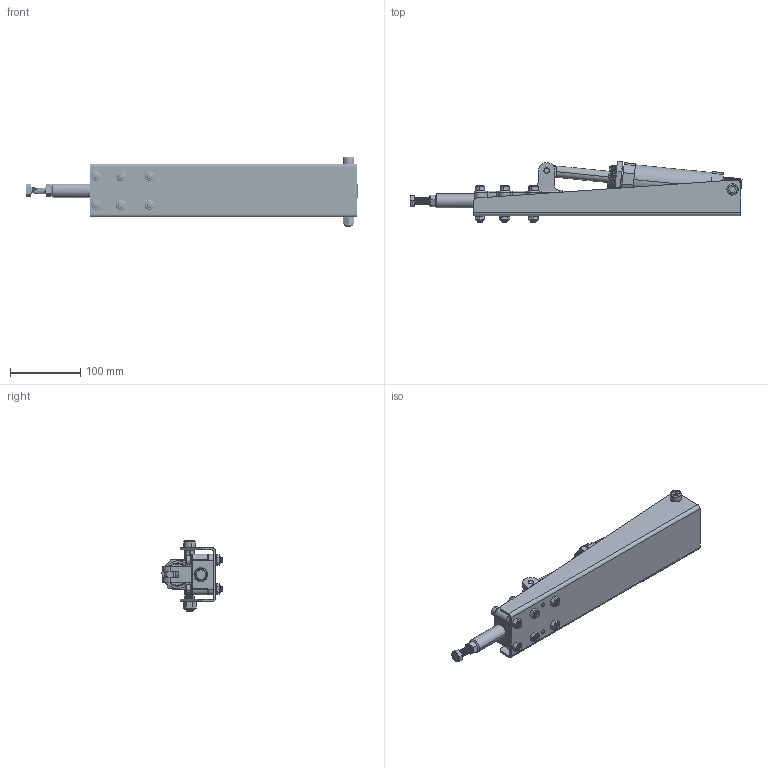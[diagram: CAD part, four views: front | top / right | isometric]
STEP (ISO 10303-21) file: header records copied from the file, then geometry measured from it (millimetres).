
FILE_DESCRIPTION(('FreeCAD Model'),'2;1');
FILE_NAME('Open CASCADE Shape Model','2021-08-18T14:46:13',('Author'),( ''),'Open CASCADE STEP processor 7.4','FreeCAD','Unknown');
FILE_SCHEMA(('AUTOMOTIVE_DESIGN { 1 0 10303 214 1 1 1 1 }'));
Length unit declared in the file: millimetre
Products named in the file (19): DST-31200-HL-A; CH-31200-04; M8X45; M8_Nut; DST-31200-06; M10X90; M10X75; DST-31200-03; DST-31200HL-A-02; M10; DST-31200-05; DST-31200HL-A-05; DST-31200HL-A-01; M10_Lock_Nut; DST-31200HL-A-03; DST-31200-02; DST-31200HL-04; M33; DST-31200HL-A-04
Assembly tree (31 placements, depth 2):
  DST-31200-HL-A
    CH-31200-04
    M8X45  x6
    M8_Nut  x6
    DST-31200-06  x2
    M10X90
    M10X75
    DST-31200-03
    DST-31200HL-A-02
    M10
    DST-31200-05
    DST-31200HL-A-05  x2
    DST-31200HL-A-01
    M10_Lock_Nut
    DST-31200HL-A-03
    DST-31200-02
    DST-31200HL-04  x2
    M33
    DST-31200HL-A-04
Bounding box: 472 x 87.41 x 100 mm (x, y, z)
Volume: 624019.8 mm3; surface area: 261899.4 mm2
Topology: 31 solids, 31 shells, 2492 faces, 6960 edges, 4547 vertices
Faces by surface type: cylinder 1185, plane 846, bspline 215, cone 193, torus 51, revolution 2
Entity records: 211922 total; most frequent: CARTESIAN_POINT 133780, DIRECTION 11815, ORIENTED_EDGE 8728, PCURVE 8728, DEFINITIONAL_REPRESENTATION 8728, LINE 6959, VECTOR 6959, EDGE_CURVE 4364
